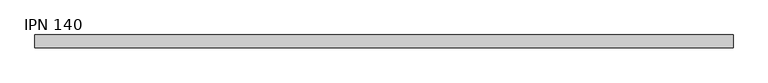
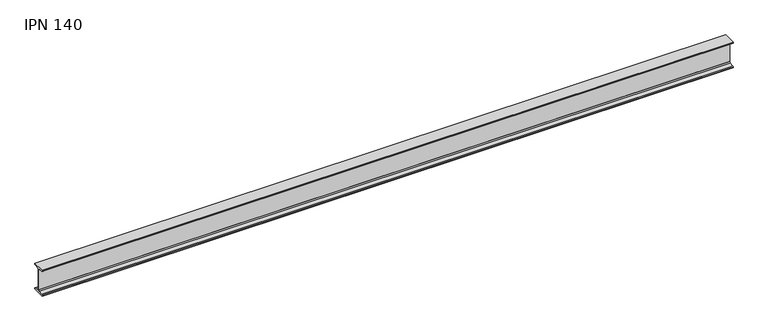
"""IFC4 building model written with IfcOpenShell, lengths in millimetres: beam geometry, IPN - Secciones en I con alas cónicas : IPN 140."""

from ifc_helpers import new_model, si_unit, point, frame, frame_2d, origin, place, context, project, spatial, polyline, circle_curve, trimmed, segment, composite_curve, outline, extrude, source, transform, mapped, element, save


def ipn_140_c3178bab(model_context):
    return source(origin(), model_context, "Body", "SweptSolid", [
        extrude(outline(composite_curve([segment(polyline([(33.0, 70.0), (33.0, 66.6671583)]), True, "CONTINUOUS"), segment(trimmed(circle_curve(frame_2d((29.6, 66.6671583)), 3.4), [point((33.0, 66.6671583))], [point((30.0714027, 63.2999964))], False, "CARTESIAN"), True, "CONTINUOUS"), segment(polyline([(30.0714027, 63.2999964), (7.7597073, 60.176359)]), True, "CONTINUOUS"), segment(trimmed(circle_curve(frame_2d((8.55, 54.5314111)), 5.7), [point((7.7597073, 60.176359))], [point((2.85, 54.5314111))], True, "CARTESIAN"), True, "CONTINUOUS"), segment(polyline([(2.85, 54.5314111), (2.85, -54.5314111)]), True, "CONTINUOUS"), segment(trimmed(circle_curve(frame_2d((8.55, -54.5314111)), 5.7), [point((2.85, -54.5314111))], [point((7.7597073, -60.176359))], True, "CARTESIAN"), True, "CONTINUOUS"), segment(polyline([(7.7597073, -60.176359), (30.0714027, -63.2999964)]), True, "CONTINUOUS"), segment(trimmed(circle_curve(frame_2d((29.6, -66.6671583)), 3.4), [point((30.0714027, -63.2999964))], [point((33.0, -66.6671583))], False, "CARTESIAN"), True, "CONTINUOUS"), segment(polyline([(33.0, -66.6671583), (33.0, -70.0), (-33.0, -70.0), (-33.0, -66.6671583)]), True, "CONTINUOUS"), segment(trimmed(circle_curve(frame_2d((-29.6, -66.6671583)), 3.4), [point((-33.0, -66.6671583))], [point((-30.0714027, -63.2999964))], False, "CARTESIAN"), True, "CONTINUOUS"), segment(polyline([(-30.0714027, -63.2999964), (-7.7597073, -60.176359)]), True, "CONTINUOUS"), segment(trimmed(circle_curve(frame_2d((-8.55, -54.5314111)), 5.7), [point((-7.7597073, -60.176359))], [point((-2.85, -54.5314111))], True, "CARTESIAN"), True, "CONTINUOUS"), segment(polyline([(-2.85, -54.5314111), (-2.85, 54.5314111)]), True, "CONTINUOUS"), segment(trimmed(circle_curve(frame_2d((-8.55, 54.5314111)), 5.7), [point((-2.85, 54.5314111))], [point((-7.7597073, 60.176359))], True, "CARTESIAN"), True, "CONTINUOUS"), segment(polyline([(-7.7597073, 60.176359), (-30.0714027, 63.2999964)]), True, "CONTINUOUS"), segment(trimmed(circle_curve(frame_2d((-29.6, 66.6671583)), 3.4), [point((-30.0714027, 63.2999964))], [point((-33.0, 66.6671583))], False, "CARTESIAN"), True, "CONTINUOUS"), segment(polyline([(-33.0, 66.6671583), (-33.0, 70.0), (33.0, 70.0)]), True, "CONTINUOUS")], self_intersect=False)), frame((-1845.0, 0.0, 0.0), z_axis=(1.0, 0.0, 0.0), x_axis=(0.0, 1.0, 0.0)), (0.0, 0.0, 1.0), 3580.0),
    ])


if __name__ == "__main__":
    model = new_model("IFC4")
    model_context = context("Model", 3, world=origin())
    ifc_project = project(units=[si_unit("LENGTHUNIT", "METRE", prefix="MILLI")], contexts=[model_context])
    site = spatial("IfcSite", under=ifc_project)
    building = spatial("IfcBuilding", under=site)
    placement = place(None, origin())
    ipn_140_shape = ipn_140_c3178bab(model_context)
    element("IfcBeam", 1, ObjectType="IPN - Secciones en I con alas cónicas : IPN 140", at=placement, inside=building, context=model_context, shape_type="MappedRepresentation", body=[
        mapped(ipn_140_shape, transform((0.0, 0.0, 0.0), x_axis=(1.0, 0.0, 0.0), y_axis=(0.0, 1.0, 0.0), z_axis=(0.0, 0.0, 1.0))),
    ])
    save(model, "model.ifc")
